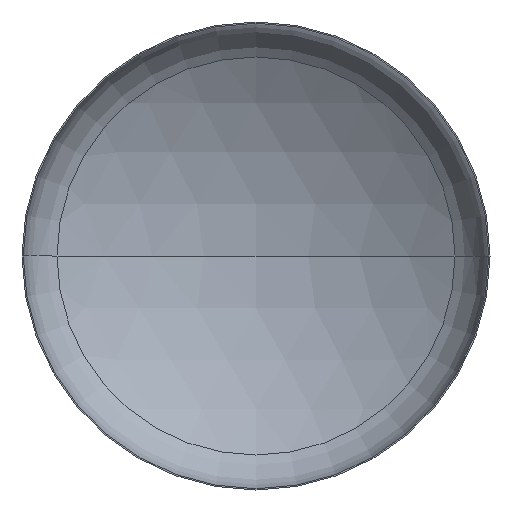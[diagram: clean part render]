
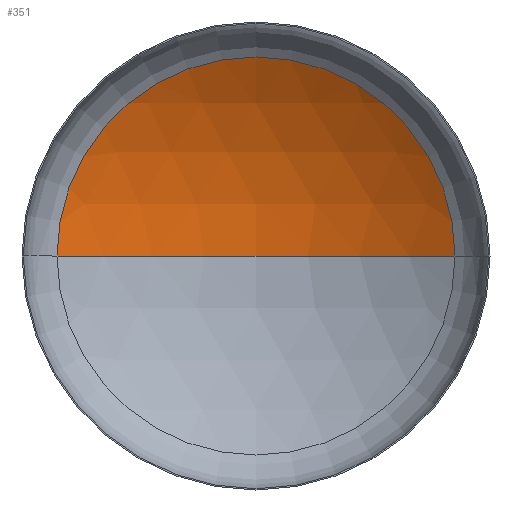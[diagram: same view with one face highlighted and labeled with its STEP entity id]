
A CAD part, front view. The second image highlights one B-rep face of the part: STEP entity #351.
In plain terms, the highlighted spherical face has radius 6400 mm.
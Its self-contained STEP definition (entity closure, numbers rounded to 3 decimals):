
#7 = AXIS2_PLACEMENT_3D ( 'NONE', #96, #339, #315 ) ;
#22 = CARTESIAN_POINT ( 'NONE',  ( -3401.779, 1111.86, 0. ) ) ;
#34 = VERTEX_POINT ( 'NONE', #277 ) ;
#50 = AXIS2_PLACEMENT_3D ( 'NONE', #197, #201, #181 ) ;
#52 = AXIS2_PLACEMENT_3D ( 'NONE', #164, #290, #288 ) ;
#56 = AXIS2_PLACEMENT_3D ( 'NONE', #283, #281, #280 ) ;
#94 = EDGE_CURVE ( 'NONE', #34, #109, #238, .T. ) ;
#96 = CARTESIAN_POINT ( 'NONE',  ( 0., -4309.2, 0. ) ) ;
#99 = EDGE_CURVE ( 'NONE', #376, #34, #143, .T. ) ;
#101 = EDGE_CURVE ( 'NONE', #376, #109, #407, .T. ) ;
#109 = VERTEX_POINT ( 'NONE', #22 ) ;
#118 = CARTESIAN_POINT ( 'NONE',  ( 0., 2090.8, 0. ) ) ;
#143 = CIRCLE ( 'NONE', #52, 6400. ) ;
#164 = CARTESIAN_POINT ( 'NONE',  ( 0., -4309.2, 0. ) ) ;
#172 = ORIENTED_EDGE ( 'NONE', *, *, #94, .T. ) ;
#181 = DIRECTION ( 'NONE',  ( 1., 0., 0. ) ) ;
#191 = ORIENTED_EDGE ( 'NONE', *, *, #99, .T. ) ;
#195 = SPHERICAL_SURFACE ( 'NONE', #7, 6400. ) ;
#197 = CARTESIAN_POINT ( 'NONE',  ( 0., -4309.2, 0. ) ) ;
#201 = DIRECTION ( 'NONE',  ( 0., 0., 1. ) ) ;
#226 = EDGE_LOOP ( 'NONE', ( #240, #191, #172 ) ) ;
#238 = CIRCLE ( 'NONE', #56, 3401.779 ) ;
#240 = ORIENTED_EDGE ( 'NONE', *, *, #101, .F. ) ;
#277 = CARTESIAN_POINT ( 'NONE',  ( 3401.779, 1111.86, 0. ) ) ;
#280 = DIRECTION ( 'NONE',  ( 1., 0., 0. ) ) ;
#281 = DIRECTION ( 'NONE',  ( 0., -1., 0. ) ) ;
#283 = CARTESIAN_POINT ( 'NONE',  ( 0., 1111.86, 0. ) ) ;
#288 = DIRECTION ( 'NONE',  ( -1., 0., 0. ) ) ;
#290 = DIRECTION ( 'NONE',  ( 0., 0., -1. ) ) ;
#315 = DIRECTION ( 'NONE',  ( -1., 0., 0. ) ) ;
#321 = FACE_OUTER_BOUND ( 'NONE', #226, .T. ) ;
#339 = DIRECTION ( 'NONE',  ( 0., 0., -1. ) ) ;
#351 = ADVANCED_FACE ( 'NONE', ( #321 ), #195, .F. ) ;
#376 = VERTEX_POINT ( 'NONE', #118 ) ;
#407 = CIRCLE ( 'NONE', #50, 6400. ) ;
